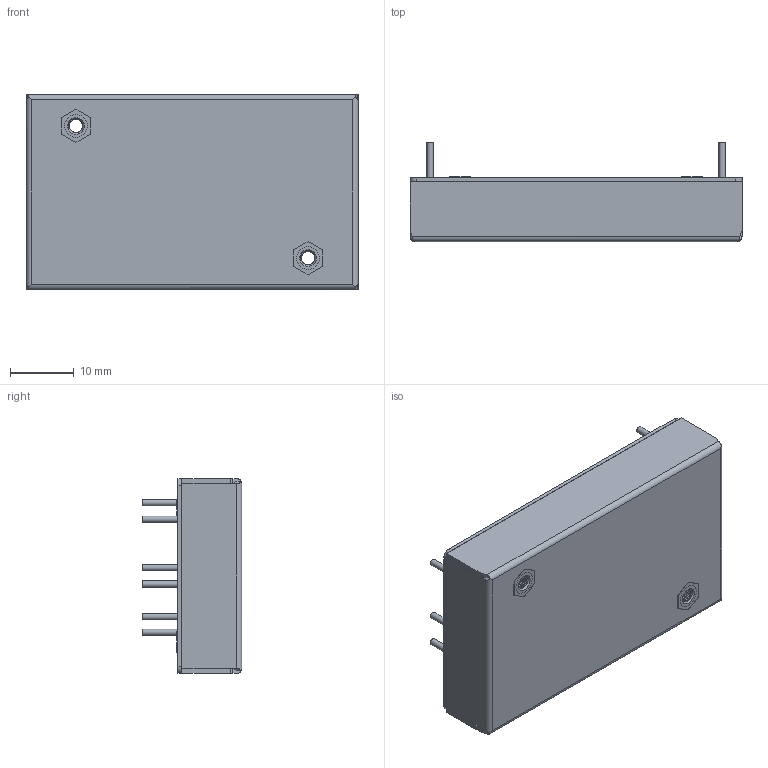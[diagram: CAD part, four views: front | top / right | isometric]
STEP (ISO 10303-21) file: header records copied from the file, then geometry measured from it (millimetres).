
FILE_DESCRIPTION (( 'STEP AP203' ), '1' );
FILE_NAME ('ECLB STANDARD 2024.12.27.STEP', '2024-12-27T06:22:20', ( '' ), ( '' ), 'SwSTEP 2.0', 'SolidWorks 2020', '' );
FILE_SCHEMA (( 'CONFIG_CONTROL_DESIGN' ));
Length unit declared in the file: millimetre
Products named in the file (1): ECLB STANDARD 2024.12.27
Bounding box: 52 x 15.6 x 30.5 mm (x, y, z)
Volume: 15787.3 mm3; surface area: 11042.1 mm2
Topology: 2 solids, 2 shells, 131 faces, 318 edges, 210 vertices
Faces by surface type: plane 87, cylinder 32, cone 8, bspline 4
Full cylindrical faces by diameter (mm): 1 x6, 1.4 x6, 3.6 x2
Entity records: 8207 total; most frequent: CARTESIAN_POINT 5254, ORIENTED_EDGE 572, DIRECTION 564, EDGE_CURVE 286, VERTEX_POINT 200, VECTOR 192, LINE 192, AXIS2_PLACEMENT_3D 186
